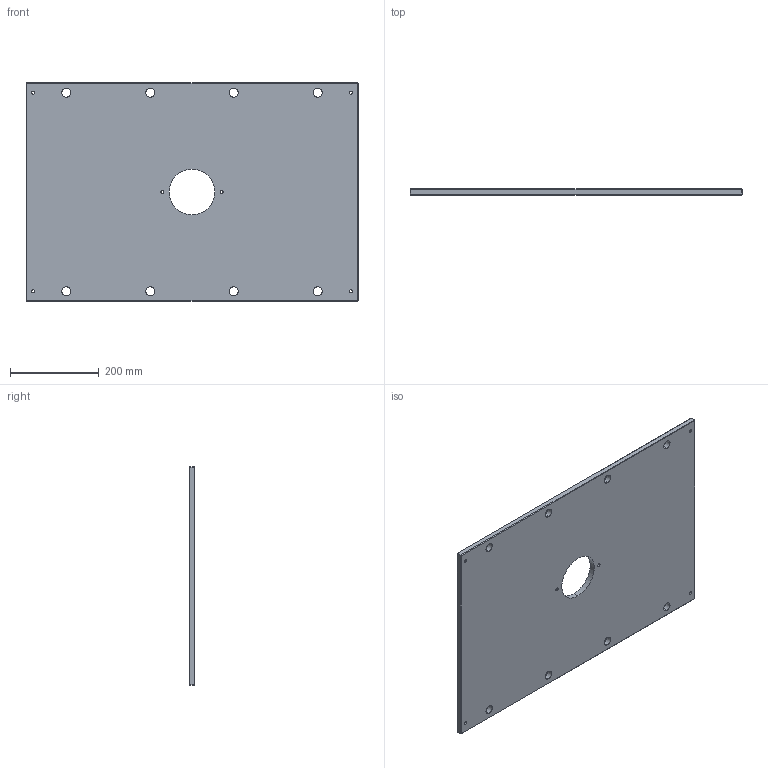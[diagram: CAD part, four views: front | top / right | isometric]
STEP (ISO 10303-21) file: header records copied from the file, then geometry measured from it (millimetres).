
FILE_DESCRIPTION (( 'STEP AP214' ), '1' );
FILE_NAME ('ME-0619-CH-1929.STEP', '2020-02-13T10:17:15', ( '' ), ( '' ), 'SwSTEP 2.0', 'SolidWorks 2018', '' );
FILE_SCHEMA (( 'AUTOMOTIVE_DESIGN' ));
Length unit declared in the file: inch
Products named in the file (1): ME-0619-CH-1929
Bounding box: 746.12 x 12.7 x 492.12 mm (x, y, z)
Volume: 4517599.6 mm3; surface area: 751920 mm2
Topology: 1 solids, 1 shells, 68 faces, 162 edges, 96 vertices
Faces by surface type: cylinder 30, plane 26, cone 12
Entity records: 2050 total; most frequent: DIRECTION 372, CARTESIAN_POINT 327, ORIENTED_EDGE 324, EDGE_CURVE 162, AXIS2_PLACEMENT_3D 141, EDGE_LOOP 98, VERTEX_POINT 96, LINE 90
